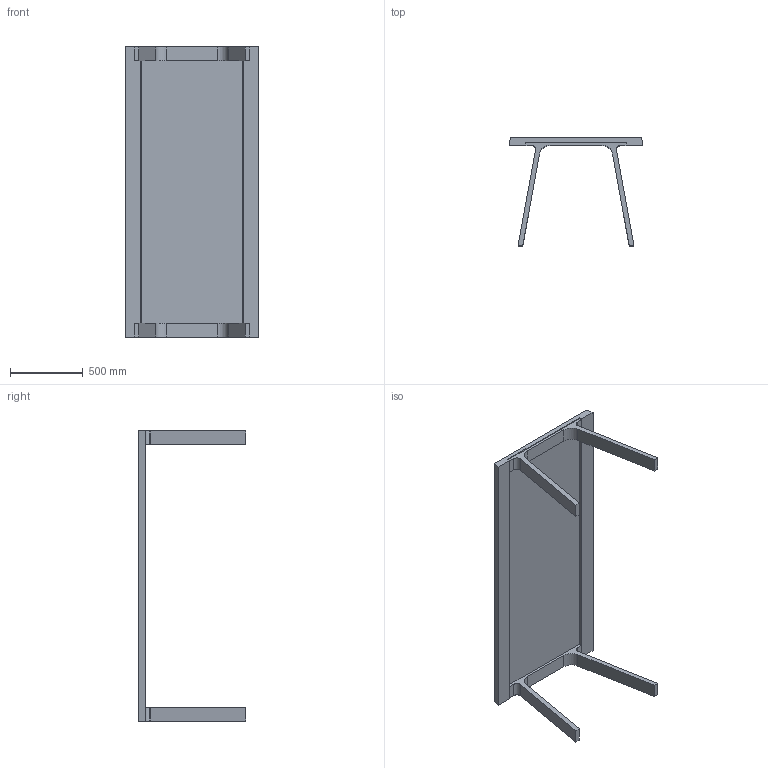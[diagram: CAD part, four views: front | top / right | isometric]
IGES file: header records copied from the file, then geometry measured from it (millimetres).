
Start section: SolidWorks IGES file using analytic representation for surfaces
Global section: file name: G:\Product Info\Doble\3D\solidworks\Doble 200x90x74.IGS; native system: SolidWorks 2008; preprocessor: SolidWorks 2008; author: remko; date: 080826.135739; units: millimetre
Bounding box: 917.63 x 740 x 2000 mm (x, y, z)
Surface area: 4870687.3 mm2 (no closed solid volume)
Topology: 0 solids, 0 shells, 46 faces, 356 edges, 356 vertices
Faces by surface type: bspline 36, revolution 10
